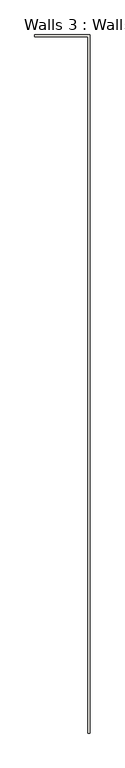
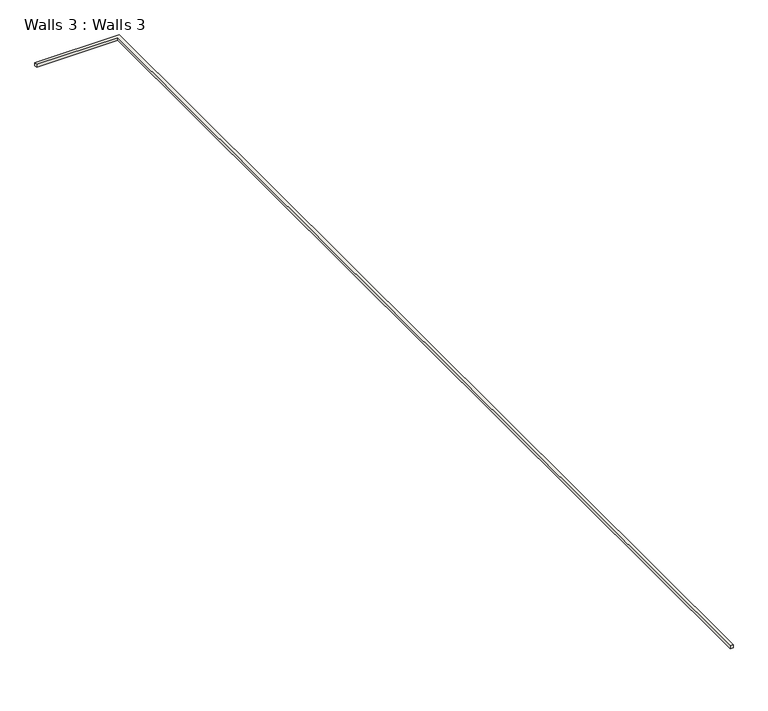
"""IFC4 building model written with IfcOpenShell, lengths in millimetres: wall geometry, Walls 3 : Walls 3."""

import ifcopenshell
import ifcopenshell.guid

model = None  # the IFC model being written
_history = None  # IfcOwnerHistory: only IFC2X3 demands one
_inside = {}  # id of a spatial element -> (the spatial element, [elements in it])
_under = {}  # id of a project, library or spatial element -> (it, [spatial elements below it])
_declared = {}  # id of a project -> (the project, [libraries it declares])
_typed = {}  # id of a type object -> (the type object, [elements of that type])
_made_of = {}  # id of a material, layer set ... -> (it, [elements and type objects made of it])


def new_model(schema):
    """Start an empty IFC model of exactly this schema.

    Asked for "IFC4X3", IfcOpenShell would pick the latest addendum, in which some entities
    have other attributes; the version numbers below select the first issue.
    IFC2X3 requires an IfcOwnerHistory on every rooted entity: one is made here for all.
    """
    global model, _history
    if schema == "IFC4X3":
        model = ifcopenshell.file(schema_version=(4, 3, 0, 0))
    else:
        model = ifcopenshell.file(schema=schema)
    _inside.clear()
    _under.clear()
    _declared.clear()
    _typed.clear()
    _made_of.clear()
    _history = None
    if model.schema == "IFC2X3":
        org = make("IfcOrganization", Name="unknown")
        user = make(
            "IfcPersonAndOrganization",
            ThePerson=make("IfcPerson", FamilyName="unknown"),
            TheOrganization=org,
        )
        app = make(
            "IfcApplication",
            ApplicationDeveloper=org,
            Version="unknown",
            ApplicationFullName="unknown",
            ApplicationIdentifier="unknown",
        )
        _history = make(
            "IfcOwnerHistory",
            OwningUser=user,
            OwningApplication=app,
            ChangeAction="ADDED",
            CreationDate=0,
        )
    return model


def make(cls, **values):
    """One entity of the class cls with the attributes given. An attribute that is None is left unset."""
    return model.create_entity(
        cls, **{name: value for name, value in values.items() if value is not None}
    )


def rooted(cls, **values):
    """An entity with a GlobalId (a new one), such as an element, a storey or a relation."""
    return make(cls, GlobalId=ifcopenshell.guid.new(), OwnerHistory=_history, **values)


def si_unit(unit_type, name, prefix=None):
    """IfcSIUnit, for example si_unit("LENGTHUNIT", "METRE", prefix="MILLI")."""
    return make("IfcSIUnit", UnitType=unit_type, Prefix=prefix, Name=name)


def assignment(units):
    """IfcUnitAssignment: the units of a project."""
    return None if units is None else make("IfcUnitAssignment", Units=units)


def point(xyz):
    """IfcCartesianPoint."""
    return None if xyz is None else make("IfcCartesianPoint", Coordinates=xyz)


def direction(xyz):
    """IfcDirection."""
    return None if xyz is None else make("IfcDirection", DirectionRatios=xyz)


def frame(location, z_axis=None, x_axis=None):
    """IfcAxis2Placement3D, a coordinate frame: its origin and axes. An axis left out is left unset."""
    return make(
        "IfcAxis2Placement3D",
        Location=point(location),
        Axis=direction(z_axis),
        RefDirection=direction(x_axis),
    )


def origin():
    """The frame at (0, 0, 0) with its axes left unset."""
    return frame((0.0, 0.0, 0.0))


def place(relative_to, where):
    """IfcLocalPlacement: puts the frame where relative to a parent placement (None: the world)."""
    return make(
        "IfcLocalPlacement", PlacementRelTo=relative_to, RelativePlacement=where
    )


def context(
    kind, dimensions, precision=None, world=None, true_north=None, identifier=None
):
    """IfcGeometricRepresentationContext, for example the 3D "Model" context."""
    return make(
        "IfcGeometricRepresentationContext",
        ContextIdentifier=identifier,
        ContextType=kind,
        CoordinateSpaceDimension=dimensions,
        Precision=precision,
        WorldCoordinateSystem=world,
        TrueNorth=true_north,
    )


def project(units=None, contexts=None):
    """IfcProject with its units and contexts."""
    return rooted(
        "IfcProject",
        Name="project",
        RepresentationContexts=contexts,
        UnitsInContext=assignment(units),
    )


def spatial(cls, under=None, at=None, **own):
    """A site, building, storey or space (cls), placed at a placement, below another one or the project."""
    s = rooted(cls, ObjectPlacement=at, **own)
    if under is not None:
        _under.setdefault(under.id(), (under, []))[1].append(s)
    return s


def polyline(points):
    """IfcPolyline through the points."""
    return make("IfcPolyline", Points=[point(p) for p in points])


def outline(outer, holes=None, kind="AREA"):
    """IfcArbitraryClosedProfileDef: a profile drawn as a closed curve; with holes, ...WithVoids."""
    if holes is None:
        return make("IfcArbitraryClosedProfileDef", ProfileType=kind, OuterCurve=outer)
    return make(
        "IfcArbitraryProfileDefWithVoids",
        ProfileType=kind,
        OuterCurve=outer,
        InnerCurves=holes,
    )


def extrude(swept, where, along, depth):
    """IfcExtrudedAreaSolid: the profile swept, set in the frame where, extruded along a direction by depth."""
    return make(
        "IfcExtrudedAreaSolid",
        SweptArea=swept,
        Position=where,
        ExtrudedDirection=direction(along),
        Depth=depth,
    )


def shape(context_of_items, identifier, shape_type, items):
    """IfcShapeRepresentation: the items that make up one representation, for example the "Body"."""
    return make(
        "IfcShapeRepresentation",
        ContextOfItems=context_of_items,
        RepresentationIdentifier=identifier,
        RepresentationType=shape_type,
        Items=items,
    )


def source(mapping_origin, context_of_items, identifier, shape_type, items):
    """IfcRepresentationMap: a shape defined once, which mapped items show again and again."""
    return make(
        "IfcRepresentationMap",
        MappingOrigin=mapping_origin,
        MappedRepresentation=shape(context_of_items, identifier, shape_type, items),
    )


def transform(
    local_origin,
    x_axis=None,
    y_axis=None,
    z_axis=None,
    scale=None,
    scale2=None,
    scale3=None,
    uniform=True,
):
    """IfcCartesianTransformationOperator3D, or its non-uniform kind. x_axis, y_axis, z_axis: its Axis1, 2, 3."""
    if uniform:
        return make(
            "IfcCartesianTransformationOperator3D",
            Axis1=direction(x_axis),
            Axis2=direction(y_axis),
            LocalOrigin=point(local_origin),
            Scale=scale,
            Axis3=direction(z_axis),
        )
    return make(
        "IfcCartesianTransformationOperator3DnonUniform",
        Axis1=direction(x_axis),
        Axis2=direction(y_axis),
        LocalOrigin=point(local_origin),
        Scale=scale,
        Axis3=direction(z_axis),
        Scale2=scale2,
        Scale3=scale3,
    )


def mapped(mapping_source, mapping_target):
    """IfcMappedItem: shows the shape of a source again, moved by a transform."""
    return make(
        "IfcMappedItem", MappingSource=mapping_source, MappingTarget=mapping_target
    )


def made_of(thing, what):
    """Note that an element or type object is made of a material, layer set ...; save() writes the relation."""
    if what is not None:
        _made_of.setdefault(what.id(), (what, []))[1].append(thing)
    return thing


def element(
    cls,
    number,
    at=None,
    inside=None,
    cuts=None,
    type_object=None,
    material=None,
    context=None,
    identifier="Body",
    shape_type=None,
    held_by="IfcProductDefinitionShape",
    body=None,
    shapes=None,
    **own,
):
    """One element of the class cls, such as IfcWall. Its Tag is "e" and its number.

    at: its placement. inside: the storey or other place that contains it. cuts: it is an
    opening in that element (IfcRelVoidsElement). A single representation is given by context,
    identifier, shape_type and body (its items); several are given by shapes. held_by: the class
    of the entity that holds the representations. save() writes the other relations.
    """
    e = rooted(cls, Tag="e%d" % number, ObjectPlacement=at, **own)
    if body is not None:
        shapes = [shape(context, identifier, shape_type, body)]
    if shapes is not None:
        e.Representation = make(held_by, Representations=shapes)
    if inside is not None:
        _inside.setdefault(inside.id(), (inside, []))[1].append(e)
    if cuts is not None:
        rooted(
            "IfcRelVoidsElement", RelatingBuildingElement=cuts, RelatedOpeningElement=e
        )
    if type_object is not None:
        _typed.setdefault(type_object.id(), (type_object, []))[1].append(e)
    return made_of(e, material)


def aggregate(whole, parts):
    """IfcRelAggregates: a whole, such as a stair, and the parts it consists of."""
    return rooted("IfcRelAggregates", RelatingObject=whole, RelatedObjects=parts)


def save(model, path):
    """Write the relations noted so far, then the file.

    IfcRelAggregates (storeys below a building ...), IfcRelContainedInSpatialStructure (elements
    in a storey), IfcRelDefinesByType, IfcRelAssociatesMaterial and IfcRelDeclares: one each for
    every whole, place, type object, material and project.
    """
    for whole, parts in _under.values():
        aggregate(whole, parts)
    for where, things in _inside.values():
        rooted(
            "IfcRelContainedInSpatialStructure",
            RelatedElements=things,
            RelatingStructure=where,
        )
    for kind, things in _typed.values():
        rooted("IfcRelDefinesByType", RelatedObjects=things, RelatingType=kind)
    for what, things in _made_of.values():
        rooted("IfcRelAssociatesMaterial", RelatedObjects=things, RelatingMaterial=what)
    for by, libraries in _declared.values():
        rooted("IfcRelDeclares", RelatingContext=by, RelatedDefinitions=libraries)
    model.write(path)


def walls_3_walls_3_4ff58930(model_context):
    return source(origin(), model_context, "Body", "SweptSolid", [
        extrude(outline(polyline([(21701.9049773, -388.6090595), (21676.5049773, -388.6090595), (21676.5049773, 8660.1409405), (20984.3549773, 8660.1409405), (20984.3549773, 8685.5409405), (21701.9049773, 8685.5409405), (21701.9049773, -388.6090595)])), frame((0.0, 0.0, 330.2), z_axis=(0.0, 0.0, 1.0), x_axis=(1.0, 0.0, 0.0)), (0.0, 0.0, 1.0), 25.4),
    ])


if __name__ == "__main__":
    model = new_model("IFC4")
    model_context = context("Model", 3, world=origin())
    ifc_project = project(units=[si_unit("LENGTHUNIT", "METRE", prefix="MILLI")], contexts=[model_context])
    site = spatial("IfcSite", under=ifc_project)
    building = spatial("IfcBuilding", under=site)
    placement = place(None, origin())
    walls_3_walls_3_shape = walls_3_walls_3_4ff58930(model_context)
    element("IfcWall", 1, ObjectType="Walls 3 : Walls 3", at=placement, inside=building, context=model_context, shape_type="MappedRepresentation", body=[
        mapped(walls_3_walls_3_shape, transform((0.0, 0.0, 0.0), x_axis=(1.0, 0.0, 0.0), y_axis=(0.0, 1.0, 0.0), z_axis=(0.0, 0.0, 1.0))),
    ])
    save(model, "model.ifc")
